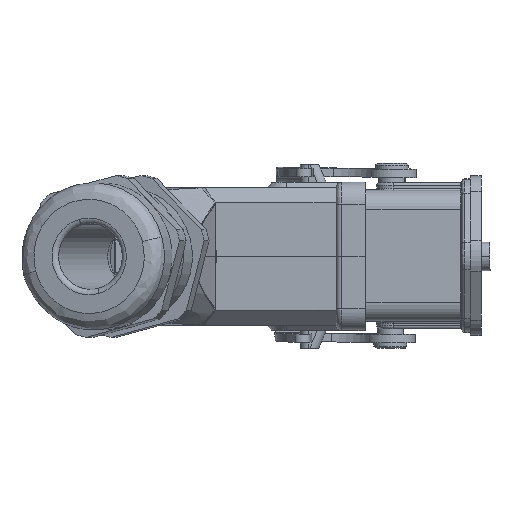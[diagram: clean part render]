
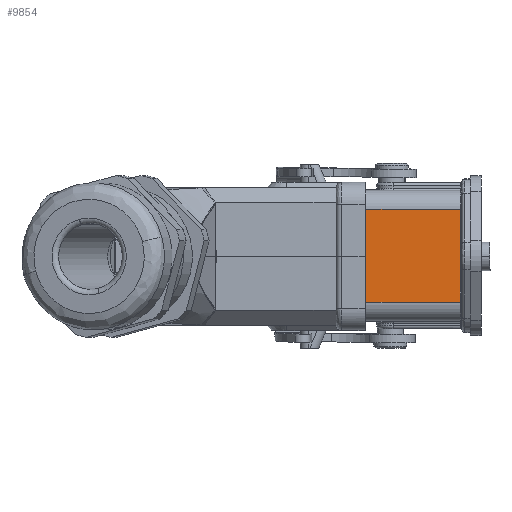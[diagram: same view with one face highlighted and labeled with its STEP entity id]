
A CAD part, left-side view. The second image highlights one B-rep face of the part: STEP entity #9854.
In plain terms, the highlighted planar face has unit normal (-1, 0, 0).
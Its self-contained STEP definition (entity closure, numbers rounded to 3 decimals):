
#573 = VERTEX_POINT ( 'NONE', #19913 ) ;
#774 = DIRECTION ( 'NONE',  ( 0., 0., 1. ) ) ;
#974 = EDGE_CURVE ( 'NONE', #5430, #45799, #48552, .T. ) ;
#5430 = VERTEX_POINT ( 'NONE', #43472 ) ;
#5579 = CARTESIAN_POINT ( 'NONE',  ( -12., 2.8, -12. ) ) ;
#6250 = ORIENTED_EDGE ( 'NONE', *, *, #9341, .T. ) ;
#8141 = AXIS2_PLACEMENT_3D ( 'NONE', #9026, #40197, #32094 ) ;
#9026 = CARTESIAN_POINT ( 'NONE',  ( -12., 2.5, -12. ) ) ;
#9341 = EDGE_CURVE ( 'NONE', #12217, #573, #19655, .T. ) ;
#9854 = ADVANCED_FACE ( 'NONE', ( #23104 ), #53917, .T. ) ;
#12217 = VERTEX_POINT ( 'NONE', #52348 ) ;
#12320 = CARTESIAN_POINT ( 'NONE',  ( -12., 22., 0. ) ) ;
#15887 = CARTESIAN_POINT ( 'NONE',  ( -12., 2.5, -8.426 ) ) ;
#19205 = CARTESIAN_POINT ( 'NONE',  ( -12., 22., 8.426 ) ) ;
#19411 = VECTOR ( 'NONE', #25731, 1000. ) ;
#19655 = LINE ( 'NONE', #5579, #53000 ) ;
#19913 = CARTESIAN_POINT ( 'NONE',  ( -12., 2.8, 8.426 ) ) ;
#21030 = LINE ( 'NONE', #21903, #57299 ) ;
#21903 = CARTESIAN_POINT ( 'NONE',  ( -12., 22.086, 8.426 ) ) ;
#23104 = FACE_OUTER_BOUND ( 'NONE', #41477, .T. ) ;
#25731 = DIRECTION ( 'NONE',  ( 0., -1., 0. ) ) ;
#30588 = DIRECTION ( 'NONE',  ( 0., 0., 1. ) ) ;
#32094 = DIRECTION ( 'NONE',  ( 0., 0., 1. ) ) ;
#35404 = EDGE_CURVE ( 'NONE', #5430, #12217, #39234, .T. ) ;
#39234 = LINE ( 'NONE', #15887, #19411 ) ;
#39328 = DIRECTION ( 'NONE',  ( 0., -1., 0. ) ) ;
#39393 = EDGE_CURVE ( 'NONE', #45799, #573, #21030, .T. ) ;
#40197 = DIRECTION ( 'NONE',  ( -1., 0., 0. ) ) ;
#41477 = EDGE_LOOP ( 'NONE', ( #49460, #6250, #45041, #42340 ) ) ;
#42340 = ORIENTED_EDGE ( 'NONE', *, *, #974, .F. ) ;
#43472 = CARTESIAN_POINT ( 'NONE',  ( -12., 22., -8.426 ) ) ;
#45041 = ORIENTED_EDGE ( 'NONE', *, *, #39393, .F. ) ;
#45799 = VERTEX_POINT ( 'NONE', #19205 ) ;
#48552 = LINE ( 'NONE', #12320, #57603 ) ;
#49460 = ORIENTED_EDGE ( 'NONE', *, *, #35404, .T. ) ;
#52348 = CARTESIAN_POINT ( 'NONE',  ( -12., 2.8, -8.426 ) ) ;
#53000 = VECTOR ( 'NONE', #774, 1000. ) ;
#53917 = PLANE ( 'NONE',  #8141 ) ;
#57299 = VECTOR ( 'NONE', #39328, 1000. ) ;
#57603 = VECTOR ( 'NONE', #30588, 1000. ) ;
